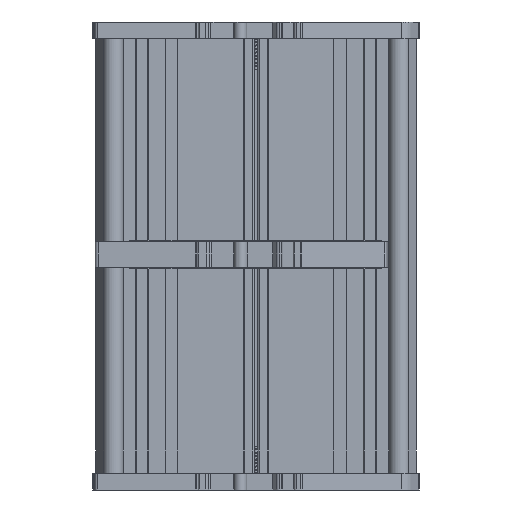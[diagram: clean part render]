
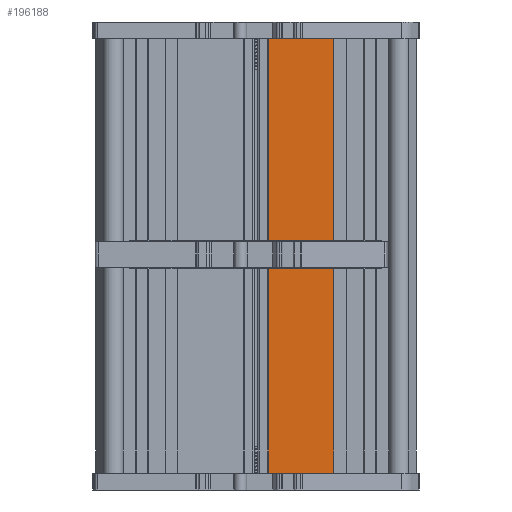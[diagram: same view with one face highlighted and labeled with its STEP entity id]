
A CAD part, front view. The second image highlights one B-rep face of the part: STEP entity #196188.
In plain terms, the highlighted planar face has unit normal (0, -1, 0).
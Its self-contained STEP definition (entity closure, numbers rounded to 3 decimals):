
#189292 = PLANE('',#189293);
#189293 = AXIS2_PLACEMENT_3D('',#189294,#189295,#189296);
#189294 = CARTESIAN_POINT('',(-70.,-7.,-66.6));
#189295 = DIRECTION('',(0.,0.,1.));
#189296 = DIRECTION('',(1.,0.,0.));
#189345 = PLANE('',#189346);
#189346 = AXIS2_PLACEMENT_3D('',#189347,#189348,#189349);
#189347 = CARTESIAN_POINT('',(60.401,17.6,105.4));
#189348 = DIRECTION('',(0.,0.,-1.));
#189349 = DIRECTION('',(1.,0.,0.));
#190500 = VERTEX_POINT('',#190501);
#190501 = CARTESIAN_POINT('',(5.4,11.9,105.4));
#190520 = CYLINDRICAL_SURFACE('',#190521,0.3);
#190521 = AXIS2_PLACEMENT_3D('',#190522,#190523,#190524);
#190522 = CARTESIAN_POINT('',(5.4,11.6,17.4));
#190523 = DIRECTION('',(0.,0.,1.));
#190524 = DIRECTION('',(1.,0.,0.));
#190532 = EDGE_CURVE('',#190500,#190533,#190535,.T.);
#190533 = VERTEX_POINT('',#190534);
#190534 = CARTESIAN_POINT('',(32.6,11.9,105.4));
#190535 = SURFACE_CURVE('',#190536,(#190540,#190547),.PCURVE_S1.);
#190536 = LINE('',#190537,#190538);
#190537 = CARTESIAN_POINT('',(2.1,11.9,105.4));
#190538 = VECTOR('',#190539,1.);
#190539 = DIRECTION('',(1.,0.,0.));
#190540 = PCURVE('',#189345,#190541);
#190541 = DEFINITIONAL_REPRESENTATION('',(#190542),#190546);
#190542 = LINE('',#190543,#190544);
#190543 = CARTESIAN_POINT('',(-58.301,5.7));
#190544 = VECTOR('',#190545,1.);
#190545 = DIRECTION('',(1.,0.));
#190546 = ( GEOMETRIC_REPRESENTATION_CONTEXT(2) 
PARAMETRIC_REPRESENTATION_CONTEXT() REPRESENTATION_CONTEXT('2D SPACE',''
  ) );
#190547 = PCURVE('',#190548,#190553);
#190548 = PLANE('',#190549);
#190549 = AXIS2_PLACEMENT_3D('',#190550,#190551,#190552);
#190550 = CARTESIAN_POINT('',(32.6,11.9,17.4));
#190551 = DIRECTION('',(0.,-1.,0.));
#190552 = DIRECTION('',(-1.,0.,0.));
#190553 = DEFINITIONAL_REPRESENTATION('',(#190554),#190558);
#190554 = LINE('',#190555,#190556);
#190555 = CARTESIAN_POINT('',(30.5,-88.));
#190556 = VECTOR('',#190557,1.);
#190557 = DIRECTION('',(-1.,-0.));
#190558 = ( GEOMETRIC_REPRESENTATION_CONTEXT(2) 
PARAMETRIC_REPRESENTATION_CONTEXT() REPRESENTATION_CONTEXT('2D SPACE',''
  ) );
#190576 = PLANE('',#190577);
#190577 = AXIS2_PLACEMENT_3D('',#190578,#190579,#190580);
#190578 = CARTESIAN_POINT('',(32.6,11.1,17.4));
#190579 = DIRECTION('',(-1.,0.,0.));
#190580 = DIRECTION('',(0.,1.,0.));
#194721 = VERTEX_POINT('',#194722);
#194722 = CARTESIAN_POINT('',(5.4,11.9,-66.6));
#194744 = EDGE_CURVE('',#194745,#194721,#194747,.T.);
#194745 = VERTEX_POINT('',#194746);
#194746 = CARTESIAN_POINT('',(32.6,11.9,-66.6));
#194747 = SURFACE_CURVE('',#194748,(#194752,#194758),.PCURVE_S1.);
#194748 = LINE('',#194749,#194750);
#194749 = CARTESIAN_POINT('',(-18.7,11.9,-66.6));
#194750 = VECTOR('',#194751,1.);
#194751 = DIRECTION('',(-1.,0.,0.));
#194752 = PCURVE('',#189292,#194753);
#194753 = DEFINITIONAL_REPRESENTATION('',(#194754),#194757);
#194754 = B_SPLINE_CURVE_WITH_KNOTS('',1,(#194755,#194756),
  .UNSPECIFIED.,.F.,.F.,(2,2),(-54.02,-21.38),.PIECEWISE_BEZIER_KNOTS.);
#194755 = CARTESIAN_POINT('',(105.32,18.9));
#194756 = CARTESIAN_POINT('',(72.68,18.9));
#194757 = ( GEOMETRIC_REPRESENTATION_CONTEXT(2) 
PARAMETRIC_REPRESENTATION_CONTEXT() REPRESENTATION_CONTEXT('2D SPACE',''
  ) );
#194758 = PCURVE('',#190548,#194759);
#194759 = DEFINITIONAL_REPRESENTATION('',(#194760),#194763);
#194760 = B_SPLINE_CURVE_WITH_KNOTS('',1,(#194761,#194762),
  .UNSPECIFIED.,.F.,.F.,(2,2),(-54.02,-21.38),.PIECEWISE_BEZIER_KNOTS.);
#194761 = CARTESIAN_POINT('',(-2.72,84.));
#194762 = CARTESIAN_POINT('',(29.92,84.));
#194763 = ( GEOMETRIC_REPRESENTATION_CONTEXT(2) 
PARAMETRIC_REPRESENTATION_CONTEXT() REPRESENTATION_CONTEXT('2D SPACE',''
  ) );
#196165 = EDGE_CURVE('',#194721,#190500,#196166,.T.);
#196166 = SURFACE_CURVE('',#196167,(#196171,#196178),.PCURVE_S1.);
#196167 = LINE('',#196168,#196169);
#196168 = CARTESIAN_POINT('',(5.4,11.9,17.4));
#196169 = VECTOR('',#196170,1.);
#196170 = DIRECTION('',(0.,0.,1.));
#196171 = PCURVE('',#190520,#196172);
#196172 = DEFINITIONAL_REPRESENTATION('',(#196173),#196177);
#196173 = LINE('',#196174,#196175);
#196174 = CARTESIAN_POINT('',(1.571,0.));
#196175 = VECTOR('',#196176,1.);
#196176 = DIRECTION('',(0.,1.));
#196177 = ( GEOMETRIC_REPRESENTATION_CONTEXT(2) 
PARAMETRIC_REPRESENTATION_CONTEXT() REPRESENTATION_CONTEXT('2D SPACE',''
  ) );
#196178 = PCURVE('',#190548,#196179);
#196179 = DEFINITIONAL_REPRESENTATION('',(#196180),#196184);
#196180 = LINE('',#196181,#196182);
#196181 = CARTESIAN_POINT('',(27.2,0.));
#196182 = VECTOR('',#196183,1.);
#196183 = DIRECTION('',(0.,-1.));
#196184 = ( GEOMETRIC_REPRESENTATION_CONTEXT(2) 
PARAMETRIC_REPRESENTATION_CONTEXT() REPRESENTATION_CONTEXT('2D SPACE',''
  ) );
#196188 = ADVANCED_FACE('',(#196189),#190548,.T.);
#196189 = FACE_BOUND('',#196190,.T.);
#196190 = EDGE_LOOP('',(#196191,#196192,#196193,#196214));
#196191 = ORIENTED_EDGE('',*,*,#196165,.F.);
#196192 = ORIENTED_EDGE('',*,*,#194744,.F.);
#196193 = ORIENTED_EDGE('',*,*,#196194,.F.);
#196194 = EDGE_CURVE('',#190533,#194745,#196195,.T.);
#196195 = SURFACE_CURVE('',#196196,(#196200,#196207),.PCURVE_S1.);
#196196 = LINE('',#196197,#196198);
#196197 = CARTESIAN_POINT('',(32.6,11.9,17.4));
#196198 = VECTOR('',#196199,1.);
#196199 = DIRECTION('',(0.,0.,-1.));
#196200 = PCURVE('',#190548,#196201);
#196201 = DEFINITIONAL_REPRESENTATION('',(#196202),#196206);
#196202 = LINE('',#196203,#196204);
#196203 = CARTESIAN_POINT('',(0.,-0.));
#196204 = VECTOR('',#196205,1.);
#196205 = DIRECTION('',(-0.,1.));
#196206 = ( GEOMETRIC_REPRESENTATION_CONTEXT(2) 
PARAMETRIC_REPRESENTATION_CONTEXT() REPRESENTATION_CONTEXT('2D SPACE',''
  ) );
#196207 = PCURVE('',#190576,#196208);
#196208 = DEFINITIONAL_REPRESENTATION('',(#196209),#196213);
#196209 = LINE('',#196210,#196211);
#196210 = CARTESIAN_POINT('',(0.8,0.));
#196211 = VECTOR('',#196212,1.);
#196212 = DIRECTION('',(0.,1.));
#196213 = ( GEOMETRIC_REPRESENTATION_CONTEXT(2) 
PARAMETRIC_REPRESENTATION_CONTEXT() REPRESENTATION_CONTEXT('2D SPACE',''
  ) );
#196214 = ORIENTED_EDGE('',*,*,#190532,.F.);
